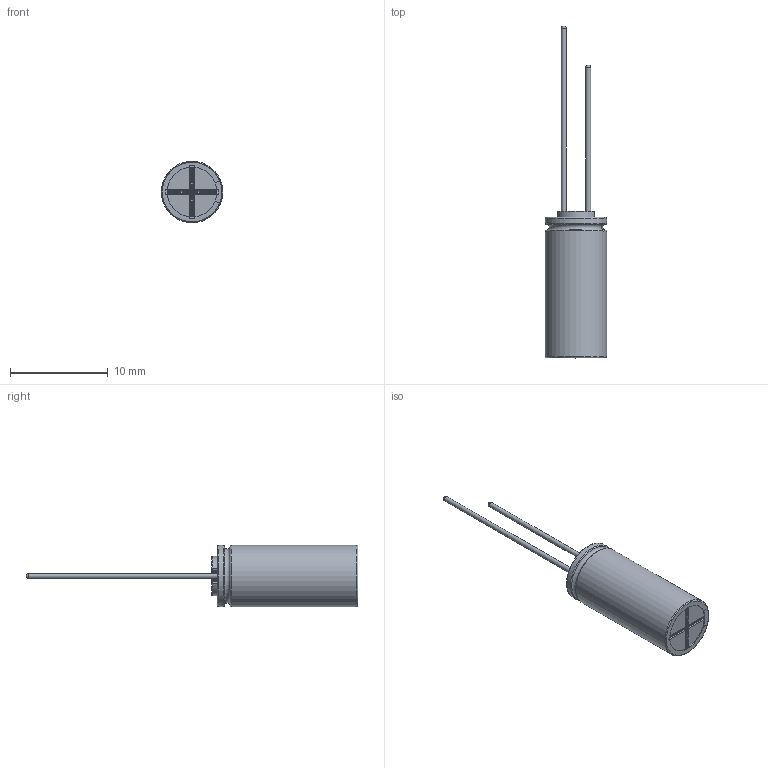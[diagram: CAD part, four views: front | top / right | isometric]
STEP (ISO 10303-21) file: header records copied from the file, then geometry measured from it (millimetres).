
FILE_DESCRIPTION(/* description */ (''),/* implementation_level */ '2;1');
FILE_NAME(/* name */ '6.3x15_Lead.stp',/* time_stamp */ '2017-09-05T13:49:45+09:00',/* author */ (''),/* organization */ (''),/* preprocessor_version */ 'ST-DEVELOPER v16',/* originating_system */ 'SIEMENS PLM Software NX 11.0',/* authorisation */ '');
FILE_SCHEMA (('AUTOMOTIVE_DESIGN { 1 0 10303 214 3 1 1 1 }'));
Length unit declared in the file: millimetre
Products named in the file (1): 6.3x15_Lead_0
Bounding box: 6.29 x 34 x 6.3 mm (x, y, z)
Volume: 453.2 mm3; surface area: 1024.2 mm2
Topology: 3 solids, 3 shells, 120 faces, 296 edges, 185 vertices
Faces by surface type: cylinder 52, plane 31, torus 27, sphere 6, bspline 4
Full cylindrical faces by diameter (mm): 0.5 x2, 6.1 x2
Entity records: 4235 total; most frequent: CARTESIAN_POINT 701, DIRECTION 684, ORIENTED_EDGE 568, EDGE_CURVE 284, AXIS2_PLACEMENT_3D 283, VERTEX_POINT 180, CIRCLE 158, EDGE_LOOP 130
